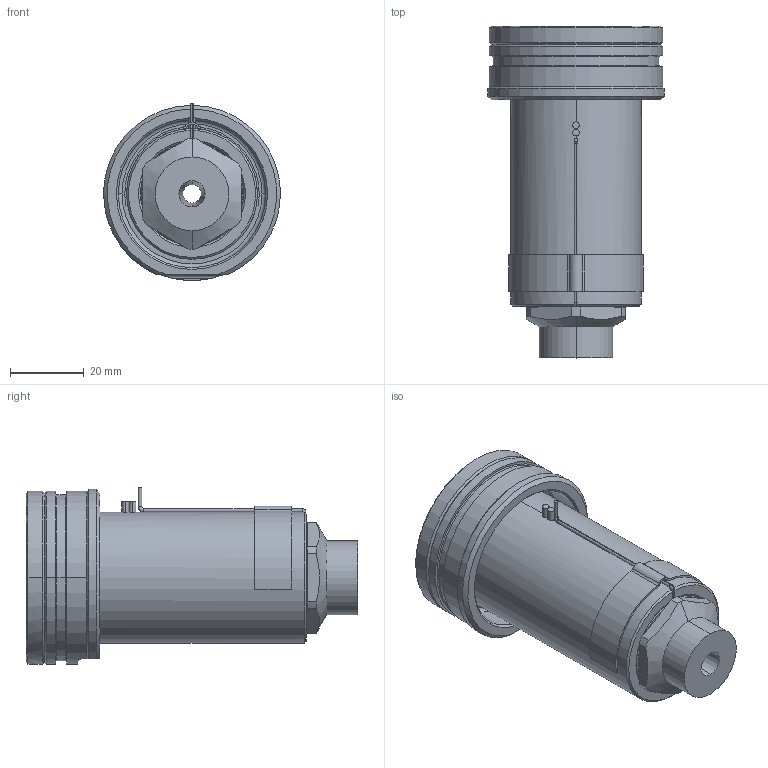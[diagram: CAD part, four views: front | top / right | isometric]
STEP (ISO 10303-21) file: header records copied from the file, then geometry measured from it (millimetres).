
FILE_DESCRIPTION((''),'2;1');
FILE_NAME('EO16_VG-ST_STD_070_SW','2024-02-19T12:54:31',('sundharh'),(''),'CREO PARAMETRIC BY PTC INC, 2023154','CREO PARAMETRIC BY PTC INC, 2023154','');
FILE_SCHEMA(('CONFIG_CONTROL_DESIGN'));
Length unit declared in the file: millimetre
Products named in the file (1): EO16_VG-ST_STD_070_SW
Bounding box: 47.97 x 90 x 48 mm (x, y, z)
Volume: 77846.2 mm3; surface area: 21643.7 mm2
Topology: 1 solids, 1 shells, 169 faces, 418 edges, 256 vertices
Faces by surface type: cylinder 64, plane 45, cone 35, torus 14, bspline 9, sphere 2
Entity records: 5753 total; most frequent: CARTESIAN_POINT 1667, DIRECTION 906, ORIENTED_EDGE 824, EDGE_CURVE 412, AXIS2_PLACEMENT_3D 374, VERTEX_POINT 256, CIRCLE 214, EDGE_LOOP 184
